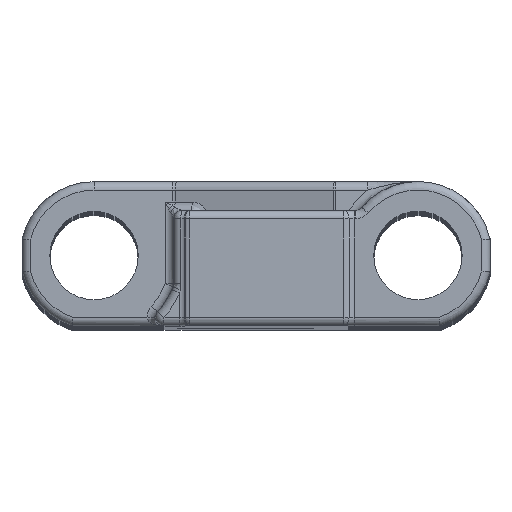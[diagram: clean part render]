
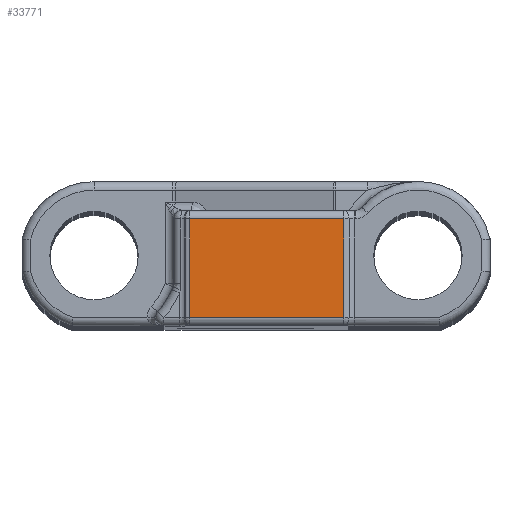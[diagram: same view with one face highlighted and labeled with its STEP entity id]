
A CAD part, top view. The second image highlights one B-rep face of the part: STEP entity #33771.
In plain terms, the highlighted planar face has unit normal (0, 0, 1).
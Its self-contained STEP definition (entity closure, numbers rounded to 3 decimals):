
#5934=DIRECTION('',(1.,0.,0.));
#5935=VECTOR('',#5934,9.067);
#5936=CARTESIAN_POINT('',(-3.892,-3.65,76.2));
#5937=LINE('',#5936,#5935);
#5938=DIRECTION('',(0.,-1.,0.));
#5939=VECTOR('',#5938,5.8);
#5940=CARTESIAN_POINT('',(-3.892,2.15,76.2));
#5941=LINE('',#5940,#5939);
#5942=DIRECTION('',(-1.,0.,0.));
#5943=VECTOR('',#5942,9.067);
#5944=CARTESIAN_POINT('',(5.175,2.15,76.2));
#5945=LINE('',#5944,#5943);
#5946=DIRECTION('',(0.,-1.,0.));
#5947=VECTOR('',#5946,5.8);
#5948=CARTESIAN_POINT('',(5.175,2.15,76.2));
#5949=LINE('',#5948,#5947);
#25241=CARTESIAN_POINT('',(5.175,-3.65,76.2));
#25242=VERTEX_POINT('',#25241);
#25243=CARTESIAN_POINT('',(-3.892,-3.65,76.2));
#25244=VERTEX_POINT('',#25243);
#25273=CARTESIAN_POINT('',(5.175,2.15,76.2));
#25274=VERTEX_POINT('',#25273);
#25279=CARTESIAN_POINT('',(-3.892,2.15,76.2));
#25280=VERTEX_POINT('',#25279);
#33758=CARTESIAN_POINT('',(-4.043,-4.15,76.2));
#33759=DIRECTION('',(0.,0.,1.));
#33760=DIRECTION('',(1.,0.,0.));
#33761=AXIS2_PLACEMENT_3D('',#33758,#33759,#33760);
#33762=PLANE('',#33761);
#33764=ORIENTED_EDGE('',*,*,#33763,.F.);
#33765=ORIENTED_EDGE('',*,*,#33727,.F.);
#33766=ORIENTED_EDGE('',*,*,#33749,.F.);
#33768=ORIENTED_EDGE('',*,*,#33767,.T.);
#33769=EDGE_LOOP('',(#33764,#33765,#33766,#33768));
#33770=FACE_OUTER_BOUND('',#33769,.F.);
#33727=EDGE_CURVE('',#25280,#25244,#5941,.T.);
#33749=EDGE_CURVE('',#25274,#25280,#5945,.T.);
#33763=EDGE_CURVE('',#25244,#25242,#5937,.T.);
#33767=EDGE_CURVE('',#25274,#25242,#5949,.T.);
#33771=ADVANCED_FACE('',(#33770),#33762,.T.);
